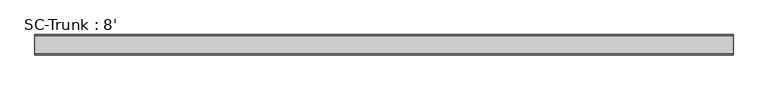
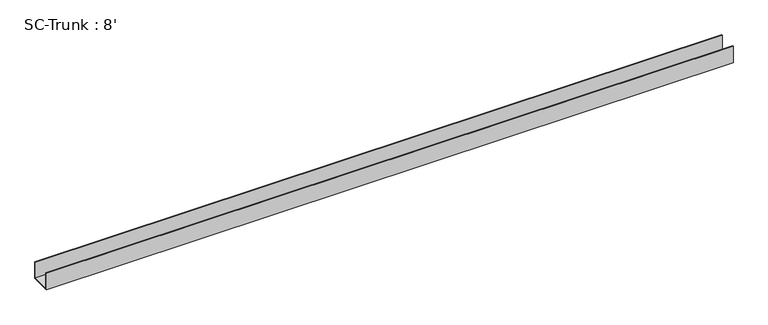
"""IFC4 building model written with IfcOpenShell, lengths in millimetres: proxy geometry, SC-Trunk : 8'."""

from ifc_helpers import new_model, si_unit, frame, origin, place, context, project, spatial, polyline, outline, extrude, source, transform, mapped, element, save


def sc_trunk_8_07c4f8b3(model_context):
    return source(origin(), model_context, "Body", "SweptSolid", [
        extrude(outline(polyline([(29.845, 57.15), (33.02, 57.15), (33.02, 0.0), (-33.02, 0.0), (-33.02, 57.15), (-29.845, 57.15), (-29.845, 3.175), (29.845, 3.175), (29.845, 57.15)])), frame((-1130.3, 0.0, 0.0), z_axis=(1.0, 0.0, 0.0), x_axis=(0.0, 1.0, 0.0)), (0.0, 0.0, 1.0), 2260.6),
    ])


if __name__ == "__main__":
    model = new_model("IFC4")
    model_context = context("Model", 3, world=origin())
    ifc_project = project(units=[si_unit("LENGTHUNIT", "METRE", prefix="MILLI")], contexts=[model_context])
    site = spatial("IfcSite", under=ifc_project)
    building = spatial("IfcBuilding", under=site)
    placement = place(None, origin())
    sc_trunk_8_shape = sc_trunk_8_07c4f8b3(model_context)
    element("IfcBuildingElementProxy", 1, Name="SC-Trunk : 8'", ObjectType="SC-Trunk : 8'", at=placement, inside=building, context=model_context, shape_type="MappedRepresentation", body=[
        mapped(sc_trunk_8_shape, transform((0.0, 0.0, 0.0), x_axis=(1.0, 0.0, 0.0), y_axis=(0.0, 1.0, 0.0), z_axis=(0.0, 0.0, 1.0))),
    ])
    save(model, "model.ifc")
